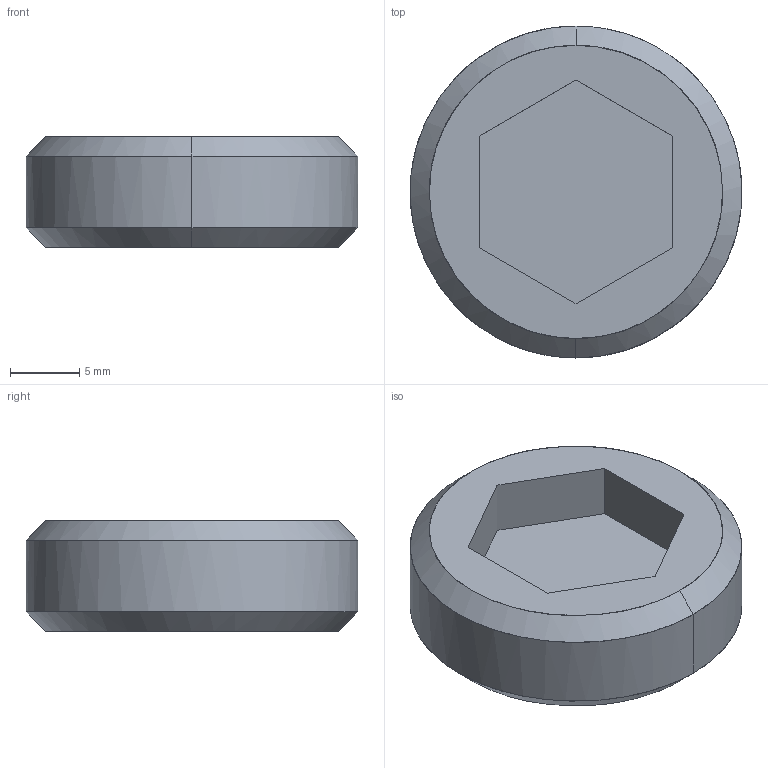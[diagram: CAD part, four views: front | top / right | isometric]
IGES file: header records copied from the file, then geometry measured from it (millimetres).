
Global section: file name: E:\UnigraphicsGraphicData\MISUMI_PRESS-PARTS\IGES\3d_msws24-8_00524_r00.igs; native system: NX V5.0; preprocessor: UGS NX IGES V5.0; author: MISUMI; date: 20110105.161525; units: millimetre
Bounding box: 23.98 x 24 x 8 mm (x, y, z)
Surface area: 1575.5 mm2 (no closed solid volume)
Topology: 0 solids, 0 shells, 15 faces, 76 edges, 76 vertices
Faces by surface type: bspline 15
